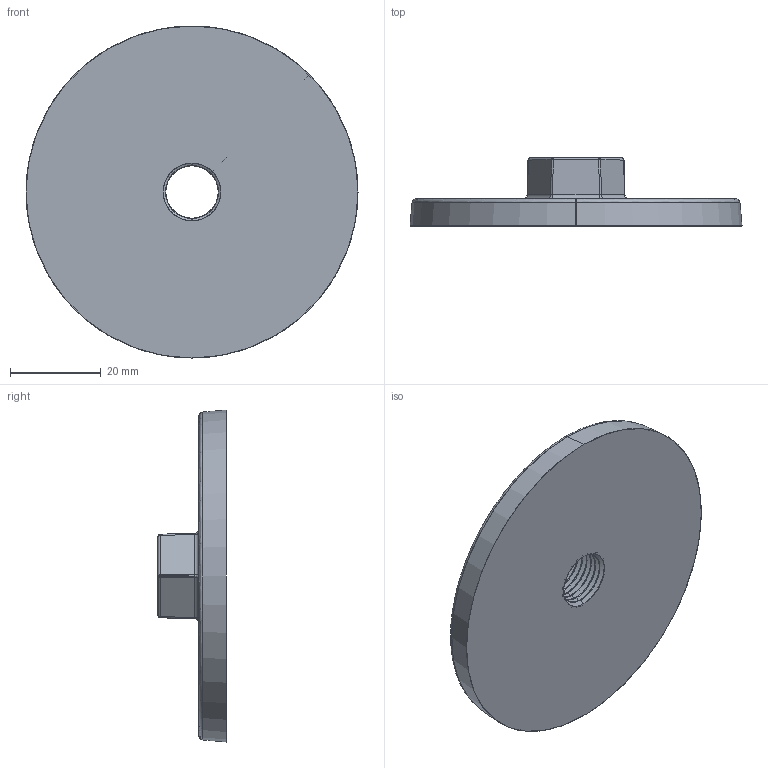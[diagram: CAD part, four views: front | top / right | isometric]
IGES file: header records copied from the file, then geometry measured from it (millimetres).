
Start section: SolidWorks IGES file using analytic representation for surfaces
Global section: file name: C:\Users\Joel Rosa\Desktop\Tubulação\12-99-OK\12-99-002.IGS; native system: SolidWorks 2011; preprocessor: SolidWorks 2011; author: Joel Rosa; date: 131021.194018; units: millimetre
Bounding box: 73 x 15 x 73 mm (x, y, z)
Surface area: 10915.9 mm2 (no closed solid volume)
Topology: 0 solids, 0 shells, 255 faces, 1820 edges, 1820 vertices
Faces by surface type: bspline 182, revolution 73
